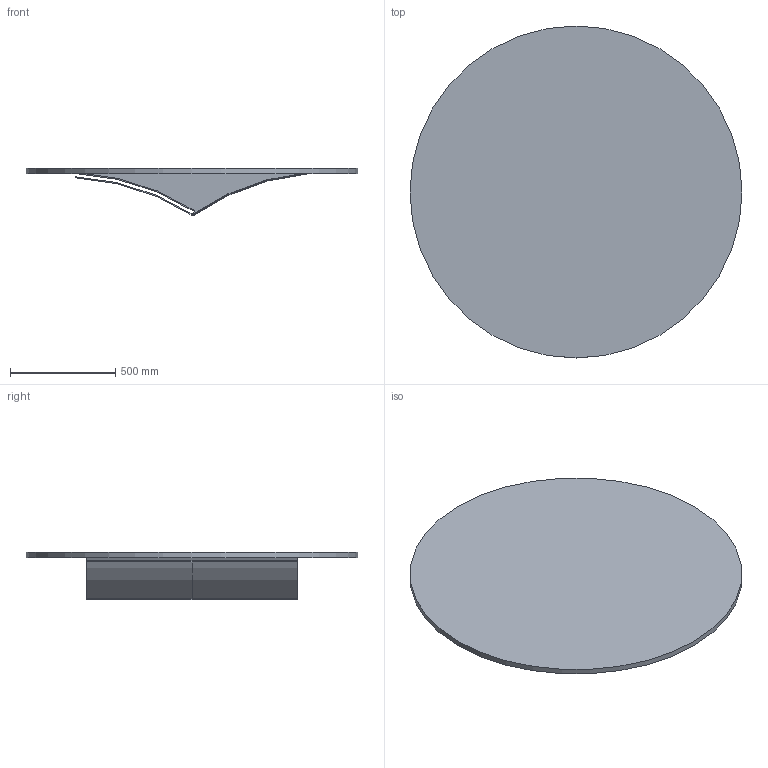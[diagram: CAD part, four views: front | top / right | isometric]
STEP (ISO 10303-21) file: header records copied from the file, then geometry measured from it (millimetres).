
FILE_DESCRIPTION( ( 'Unknown' ), '1' );
FILE_NAME( 'C:/Users/work/Documents/Solid Edge/heavy_gas_cherenkov/step/mirror_assembly.step', 'Unknown', ( 'Unknown' ), ( 'Unknown' ), 'PSStep 10.1', 'Unknown', ' ' );
FILE_SCHEMA( ( 'AUTOMOTIVE_DESIGN { 1 0 10303 214 1 1 1 1 }' ) );
Length unit declared in the file: millimetre
Products named in the file (6): Assem1; rohacell_cut_corners_round; sphere_mirror_negx_posy; sphere_mirror_negx_negy; sphere_mirror_posx_negy; sphere_mirror_posx_posy
Bounding box: 1580 x 1580 x 225.4 mm (x, y, z)
Volume: 258733198.8 mm3; surface area: 13443443.8 mm2
Topology: 10 solids, 10 shells, 64 faces, 126 edges, 84 vertices
Faces by surface type: plane 42, cylinder 22
Full cylindrical faces by diameter (mm): 1580 x2
Entity records: 1183 total; most frequent: DIRECTION 160, CARTESIAN_POINT 142, ORIENTED_EDGE 124, EDGE_CURVE 62, AXIS2_PLACEMENT_3D 60, VERTEX_POINT 42, LINE 40, VECTOR 40
